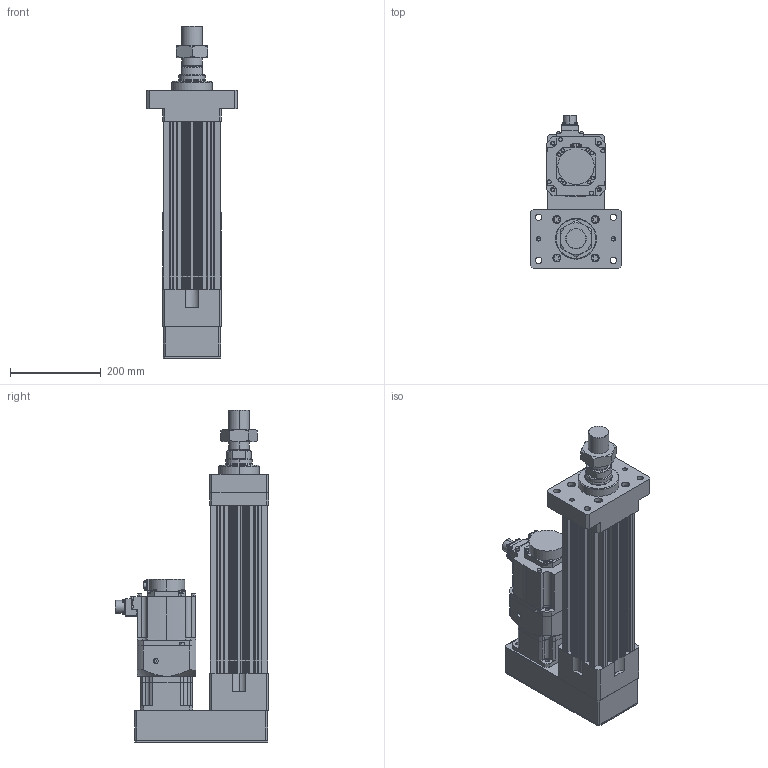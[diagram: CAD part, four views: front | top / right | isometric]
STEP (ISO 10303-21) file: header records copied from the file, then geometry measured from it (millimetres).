
FILE_DESCRIPTION (( 'STEP AP203' ), '1' );
FILE_NAME ('HES130NS(FS)(HS)-P150-W015G00-M-FMA.STEP', '2023-01-29T04:28:02', ( 'tms' ), ( '' ), 'SwSTEP 2.0', 'SolidWorks 2013', '' );
FILE_SCHEMA (( 'CONFIG_CONTROL_DESIGN' ));
Length unit declared in the file: millimetre
Products named in the file (8): AB115-003[HG-SR152]; HES130-P150-G120-FMA; HG-SR152; M45X1.5P; P0401400706; AB1151; HES130 ROD M ST150; HES130NS(FS)(HS)-P150-W015G00-M-FMA
Assembly tree (7 placements, depth 3):
  HES130NS(FS)(HS)-P150-W015G00-M-FMA
    HES130-P150-G120-FMA
    HES130 ROD M ST150
    M45X1.5P
    AB115-003[HG-SR152]
      AB1151
      P0401400706
    HG-SR152
Bounding box: 200 x 337.49 x 732 mm (x, y, z)
Volume: 9632033.8 mm3; surface area: 1064170.1 mm2
Topology: 4 solids, 11 shells, 1082 faces, 2768 edges, 1799 vertices
Faces by surface type: cylinder 513, plane 489, cone 68, bspline 8, torus 4
Entity records: 34626 total; most frequent: CARTESIAN_POINT 6632, DIRECTION 5993, ORIENTED_EDGE 5484, EDGE_CURVE 2752, AXIS2_PLACEMENT_3D 2228, VERTEX_POINT 1799, VECTOR 1537, LINE 1537
